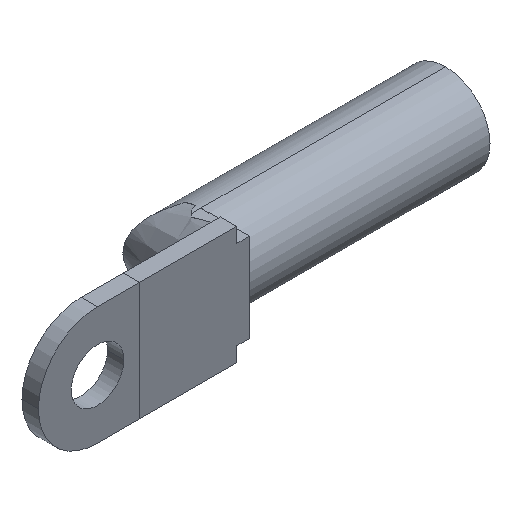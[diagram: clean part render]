
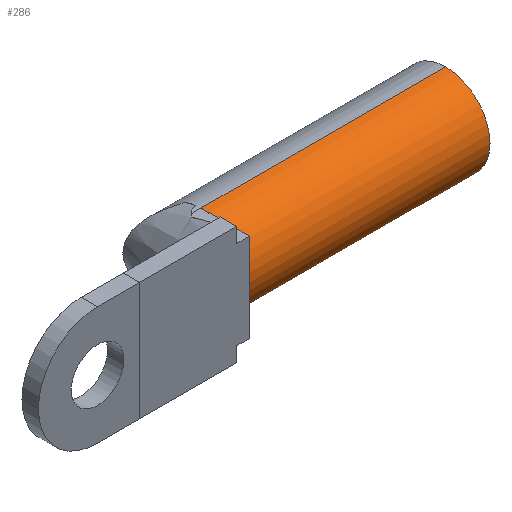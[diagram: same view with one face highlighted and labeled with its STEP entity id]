
A CAD part, isometric view. The second image highlights one B-rep face of the part: STEP entity #286.
In plain terms, the highlighted cylindrical face has radius 10.5 mm (diameter 21 mm), a partial arc.
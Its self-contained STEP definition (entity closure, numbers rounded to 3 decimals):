
#4 = CIRCLE ( 'NONE', #873, 10.5 ) ;
#46 = ORIENTED_EDGE ( 'NONE', *, *, #486, .T. ) ;
#50 = DIRECTION ( 'NONE',  ( 0., 0., 1. ) ) ;
#78 = VERTEX_POINT ( 'NONE', #754 ) ;
#138 = DIRECTION ( 'NONE',  ( -1., 0., 0. ) ) ;
#153 = DIRECTION ( 'NONE',  ( -1., 0., 0. ) ) ;
#170 = LINE ( 'NONE', #740, #257 ) ;
#172 = ORIENTED_EDGE ( 'NONE', *, *, #434, .F. ) ;
#229 = DIRECTION ( 'NONE',  ( 0., 0., 1. ) ) ;
#240 = DIRECTION ( 'NONE',  ( 1., 0., 0. ) ) ;
#257 = VECTOR ( 'NONE', #819, 1000. ) ;
#286 = ADVANCED_FACE ( 'NONE', ( #535 ), #717, .T. ) ;
#316 = CARTESIAN_POINT ( 'NONE',  ( 0., 10.5, 0. ) ) ;
#321 = VERTEX_POINT ( 'NONE', #863 ) ;
#328 = ORIENTED_EDGE ( 'NONE', *, *, #842, .F. ) ;
#377 = ORIENTED_EDGE ( 'NONE', *, *, #509, .T. ) ;
#434 = EDGE_CURVE ( 'NONE', #1020, #321, #670, .T. ) ;
#438 = AXIS2_PLACEMENT_3D ( 'NONE', #620, #138, #50 ) ;
#452 = VERTEX_POINT ( 'NONE', #571 ) ;
#465 = EDGE_LOOP ( 'NONE', ( #328, #172, #377, #46 ) ) ;
#486 = EDGE_CURVE ( 'NONE', #452, #78, #4, .T. ) ;
#509 = EDGE_CURVE ( 'NONE', #1020, #452, #803, .T. ) ;
#535 = FACE_OUTER_BOUND ( 'NONE', #465, .T. ) ;
#571 = CARTESIAN_POINT ( 'NONE',  ( 0., 10.5, 10.5 ) ) ;
#595 = VECTOR ( 'NONE', #153, 1000. ) ;
#620 = CARTESIAN_POINT ( 'NONE',  ( 58., 10.5, 0. ) ) ;
#656 = AXIS2_PLACEMENT_3D ( 'NONE', #808, #240, #730 ) ;
#670 = CIRCLE ( 'NONE', #656, 10.5 ) ;
#717 = CYLINDRICAL_SURFACE ( 'NONE', #438, 10.5 ) ;
#725 = CARTESIAN_POINT ( 'NONE',  ( 58., 10.5, 10.5 ) ) ;
#730 = DIRECTION ( 'NONE',  ( 0., 0., -1. ) ) ;
#740 = CARTESIAN_POINT ( 'NONE',  ( 58., 10.5, -10.5 ) ) ;
#754 = CARTESIAN_POINT ( 'NONE',  ( 0., 10.5, -10.5 ) ) ;
#800 = DIRECTION ( 'NONE',  ( 1., 0., 0. ) ) ;
#803 = LINE ( 'NONE', #725, #595 ) ;
#808 = CARTESIAN_POINT ( 'NONE',  ( 58., 10.5, 0. ) ) ;
#819 = DIRECTION ( 'NONE',  ( -1., 0., 0. ) ) ;
#842 = EDGE_CURVE ( 'NONE', #321, #78, #170, .T. ) ;
#863 = CARTESIAN_POINT ( 'NONE',  ( 58., 10.5, -10.5 ) ) ;
#873 = AXIS2_PLACEMENT_3D ( 'NONE', #316, #800, #229 ) ;
#919 = CARTESIAN_POINT ( 'NONE',  ( 58., 10.5, 10.5 ) ) ;
#1020 = VERTEX_POINT ( 'NONE', #919 ) ;
